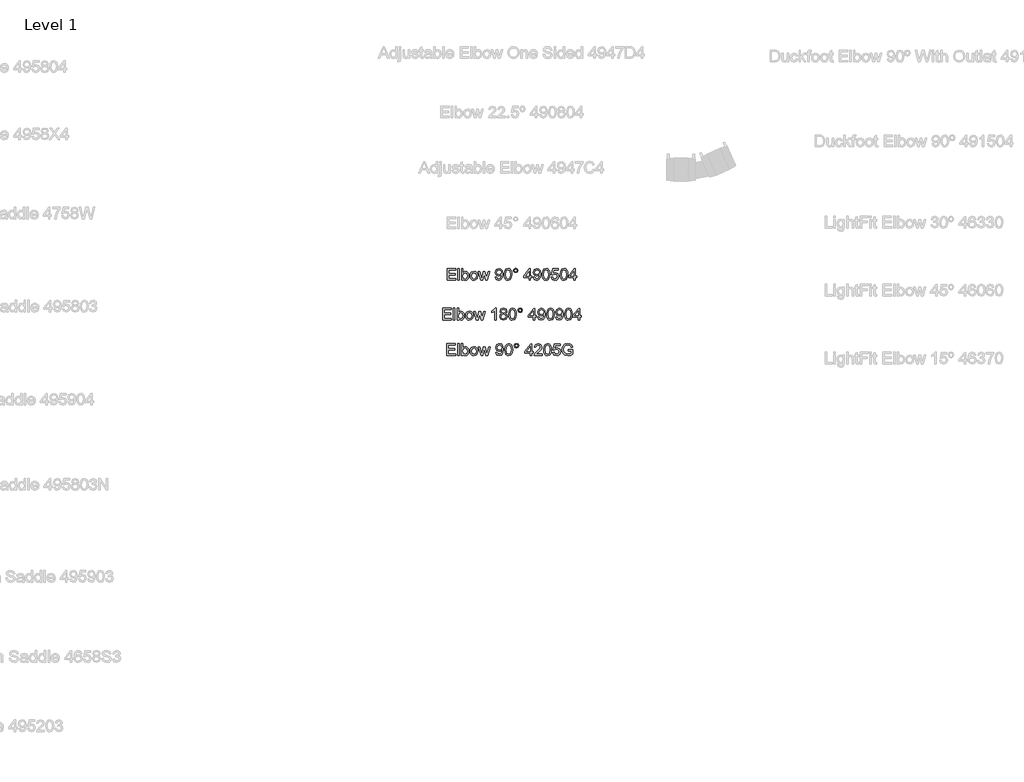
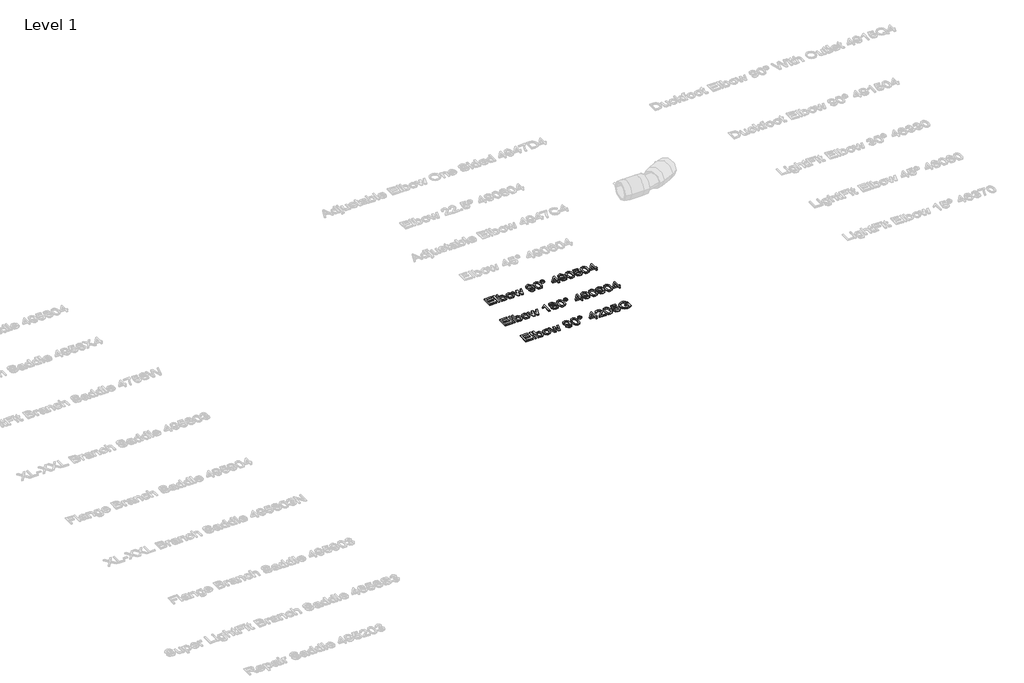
# One storey, part 14 of 41: 3 proxies.
"""IFC4 building model written with IfcOpenShell, lengths in millimetres."""

from ifc_helpers import new_model, si_unit, origin, origin_with_axes, place, context, project, spatial, polyline, outline, extrude, element, save

model = new_model("IFC4")

# Units and contexts
model_context = context("Model", 3, world=origin())
ifc_project = project(units=[si_unit("LENGTHUNIT", "METRE", prefix="MILLI")], contexts=[model_context])

# Site, building, storey
site = spatial("IfcSite", under=ifc_project)
building = spatial("IfcBuilding", under=site)
storey = spatial("IfcBuildingStorey", under=building, Name="Level 1", Elevation=0.0)

# Proxies
placement = place(None, origin())
element("IfcBuildingElementProxy", 1, Name="100 mm Arial", ObjectType="100 mm Arial", at=placement, inside=storey, context=model_context, shape_type="SweptSolid", body=[
    extrude(outline(polyline([(11332.9104891, 3888.1156584), (11332.9104891, 3947.1925814), (11375.3720276, 3947.1925814), (11375.3720276, 3939.8079661), (11340.2951045, 3939.8079661), (11340.2951045, 3922.2695045), (11373.5258737, 3922.2695045), (11373.5258737, 3914.8848891), (11340.2951045, 3914.8848891), (11340.2951045, 3895.5002738), (11376.2951045, 3895.5002738), (11376.2951045, 3888.1156584), (11332.9104891, 3888.1156584)])), origin_with_axes(), (0.0, 0.0, 1.0), 5.0),
    extrude(outline(polyline([(11386.4489506, 3888.1156584), (11386.4489506, 3947.1925814), (11393.833566, 3947.1925814), (11393.833566, 3888.1156584), (11386.4489506, 3888.1156584)])), origin_with_axes(), (0.0, 0.0, 1.0), 5.0),
    extrude(outline(polyline([(11412.2951045, 3888.1156584), (11404.9104891, 3888.1156584), (11404.9104891, 3947.1925814), (11412.2951045, 3947.1925814), (11412.2951045, 3925.2839276), (11417.4657776, 3930.6384949), (11423.8912583, 3932.4233507), (11431.2902968, 3930.8151776), (11437.0306814, 3926.293543), (11440.5571237, 3919.262293), (11441.833566, 3910.4570045), (11440.5120516, 3900.5988314), (11436.5475083, 3893.2646968), (11430.7295997, 3888.7106103), (11423.8479891, 3887.1925814), (11417.2818833, 3889.1505141), (11412.2951045, 3895.0243122), (11412.2951045, 3888.1156584)]), holes=[polyline([(11412.2951045, 3910.1108507), (11414.3143353, 3899.7839276), (11423.2133737, 3894.5771968), (11431.1172199, 3898.4137353), (11434.4489506, 3909.8512353), (11431.2542391, 3921.3320045), (11423.5306814, 3925.0387353), (11415.6268353, 3921.2021968), (11412.2951045, 3910.1108507)])]), origin_with_axes(), (0.0, 0.0, 1.0), 5.0),
    extrude(outline(polyline([(11448.2951045, 3909.8079661), (11449.8924603, 3920.2683026), (11454.6845276, 3927.6204661), (11467.694143, 3932.4233507), (11475.4519555, 3930.9612113), (11481.6484699, 3926.574793), (11485.7103689, 3919.6102497), (11487.0643353, 3910.4137353), (11484.6701045, 3897.2743122), (11477.6965468, 3889.8392161), (11467.694143, 3887.1925814), (11459.8425805, 3888.6493122), (11453.6532776, 3893.0195045), (11449.6346478, 3900.1300814), (11448.2951045, 3909.8079661)]), holes=[polyline([(11455.6797199, 3909.8223891), (11459.0979891, 3898.3776776), (11467.694143, 3894.5771968), (11476.2614506, 3898.3993122), (11479.6797199, 3910.0531584), (11476.239816, 3921.2382545), (11467.694143, 3925.0387353), (11459.0979891, 3921.2526776), (11455.6797199, 3909.8223891)])]), origin_with_axes(), (0.0, 0.0, 1.0), 5.0),
    extrude(outline(polyline([(11502.569143, 3888.1156584), (11489.3720276, 3931.5002738), (11497.0451045, 3931.5002738), (11504.5306814, 3906.1877738), (11506.7662583, 3897.1445045), (11508.5979891, 3905.856043), (11514.5547199, 3931.5002738), (11523.3527968, 3931.5002738), (11529.2806814, 3905.9281584), (11530.9104891, 3898.0387353), (11533.2470276, 3906.3608507), (11540.7470276, 3931.5002738), (11548.4489506, 3931.5002738), (11535.1508737, 3888.1156584), (11526.2229891, 3888.1156584), (11520.5547199, 3913.5579661), (11518.9104891, 3921.4906584), (11511.5979891, 3888.1156584), (11502.569143, 3888.1156584)])), origin_with_axes(), (0.0, 0.0, 1.0), 5.0),
    extrude(outline(polyline([(11575.6797199, 3902.8848891), (11583.0643353, 3903.8079661), (11586.381643, 3896.762293), (11592.6701045, 3894.5771968), (11598.6484699, 3895.9834468), (11602.7013545, 3899.7406584), (11605.1172199, 3906.1589276), (11606.1845276, 3914.7262353), (11600.2350083, 3910.5723891), (11592.1364506, 3908.4233507), (11579.7975083, 3913.6733507), (11574.756643, 3927.5050814), (11580.0427006, 3941.7839276), (11593.2902968, 3947.1925814), (11603.8119314, 3944.106043), (11611.052316, 3935.3079661), (11613.5258737, 3918.7791199), (11611.0595276, 3900.8440238), (11603.725393, 3890.6829661), (11592.3239506, 3887.1925814), (11580.9729891, 3891.3103699), (11575.6797199, 3902.8848891)]), holes=[polyline([(11606.1412583, 3927.6781584), (11602.9537583, 3936.5339276), (11594.4874122, 3939.8079661), (11585.6027968, 3936.2815238), (11582.1412583, 3927.1445045), (11585.4152968, 3918.9594084), (11594.2854891, 3915.8079661), (11602.802316, 3918.9594084), (11606.1412583, 3927.6781584)])]), origin_with_axes(), (0.0, 0.0, 1.0), 5.0),
    extrude(outline(polyline([(11619.9874122, 3917.1781584), (11622.1580853, 3934.1757545), (11628.6052006, 3943.9762353), (11639.3720276, 3947.1925814), (11647.9970276, 3945.2887353), (11653.9537583, 3939.8007545), (11657.4152968, 3931.0603699), (11658.756643, 3917.1781584), (11656.6076045, 3900.2526776), (11650.1821237, 3890.4305622), (11639.3720276, 3887.1925814), (11631.6989506, 3888.5988314), (11625.8720276, 3892.8175814), (11621.458566, 3902.809168), (11619.9874122, 3917.1781584)]), holes=[polyline([(11627.3720276, 3917.1925814), (11630.833566, 3898.8536391), (11639.3720276, 3894.5771968), (11647.9104891, 3898.8680622), (11651.3720276, 3917.1925814), (11648.0258737, 3935.3223891), (11639.2854891, 3939.8079661), (11630.9489506, 3935.856043), (11627.3720276, 3917.1925814)])]), origin_with_axes(), (0.0, 0.0, 1.0), 5.0),
    extrude(outline(polyline([(11667.0643353, 3937.0531584), (11670.3167391, 3944.8848891), (11678.1268353, 3948.1156584), (11685.9874122, 3944.8848891), (11689.2181814, 3937.0531584), (11685.9657776, 3929.2142161), (11678.1268353, 3925.9618122), (11670.3167391, 3929.1925814), (11667.0643353, 3937.0531584)]), holes=[polyline([(11671.6797199, 3937.0387353), (11673.5763545, 3932.4666199), (11678.1556814, 3930.5771968), (11682.7061622, 3932.4666199), (11684.6027968, 3937.0387353), (11682.7061622, 3941.6108507), (11678.1556814, 3943.5002738), (11673.5763545, 3941.6108507), (11671.6797199, 3937.0387353)])]), origin_with_axes(), (0.0, 0.0, 1.0), 5.0),
    extrude(outline(polyline([(11745.5258737, 3888.1156584), (11745.5258737, 3901.9618122), (11718.756643, 3901.9618122), (11718.756643, 3909.3464276), (11747.3720276, 3946.2695045), (11752.9104891, 3946.2695045), (11752.9104891, 3909.3464276), (11760.2951045, 3909.3464276), (11760.2951045, 3901.9618122), (11752.9104891, 3901.9618122), (11752.9104891, 3888.1156584), (11745.5258737, 3888.1156584)]), holes=[polyline([(11745.5258737, 3909.3464276), (11745.5258737, 3932.1637353), (11727.8431814, 3909.3464276), (11745.5258737, 3909.3464276)])]), origin_with_axes(), (0.0, 0.0, 1.0), 5.0),
    extrude(outline(polyline([(11767.6797199, 3902.8848891), (11775.0643353, 3903.8079661), (11778.381643, 3896.762293), (11784.6701045, 3894.5771968), (11790.6484699, 3895.9834468), (11794.7013545, 3899.7406584), (11797.1172199, 3906.1589276), (11798.1845276, 3914.7262353), (11792.2350083, 3910.5723891), (11784.1364506, 3908.4233507), (11771.7975083, 3913.6733507), (11766.756643, 3927.5050814), (11772.0427006, 3941.7839276), (11785.2902968, 3947.1925814), (11795.8119314, 3944.106043), (11803.052316, 3935.3079661), (11805.5258737, 3918.7791199), (11803.0595276, 3900.8440238), (11795.725393, 3890.6829661), (11784.3239506, 3887.1925814), (11772.9729891, 3891.3103699), (11767.6797199, 3902.8848891)]), holes=[polyline([(11798.1412583, 3927.6781584), (11794.9537583, 3936.5339276), (11786.4874122, 3939.8079661), (11777.6027968, 3936.2815238), (11774.1412583, 3927.1445045), (11777.4152968, 3918.9594084), (11786.2854891, 3915.8079661), (11794.802316, 3918.9594084), (11798.1412583, 3927.6781584)])]), origin_with_axes(), (0.0, 0.0, 1.0), 5.0),
    extrude(outline(polyline([(11811.9874122, 3917.1781584), (11814.1580853, 3934.1757545), (11820.6052006, 3943.9762353), (11831.3720276, 3947.1925814), (11839.9970276, 3945.2887353), (11845.9537583, 3939.8007545), (11849.4152968, 3931.0603699), (11850.756643, 3917.1781584), (11848.6076045, 3900.2526776), (11842.1821237, 3890.4305622), (11831.3720276, 3887.1925814), (11823.6989506, 3888.5988314), (11817.8720276, 3892.8175814), (11813.458566, 3902.809168), (11811.9874122, 3917.1781584)]), holes=[polyline([(11819.3720276, 3917.1925814), (11822.833566, 3898.8536391), (11831.3720276, 3894.5771968), (11839.9104891, 3898.8680622), (11843.3720276, 3917.1925814), (11840.0258737, 3935.3223891), (11831.2854891, 3939.8079661), (11822.9489506, 3935.856043), (11819.3720276, 3917.1925814)])]), origin_with_axes(), (0.0, 0.0, 1.0), 5.0),
    extrude(outline(polyline([(11857.2181814, 3903.8079661), (11864.6027968, 3904.731043), (11868.3239506, 3897.1228699), (11876.0402968, 3894.5771968), (11885.2999122, 3898.1180622), (11888.6027968, 3907.5146968), (11885.5090468, 3916.2839276), (11876.1556814, 3919.5002738), (11869.6725083, 3918.2166199), (11865.5258737, 3914.8848891), (11858.1412583, 3915.8079661), (11864.6027968, 3946.2695045), (11893.2181814, 3946.2695045), (11893.2181814, 3938.8848891), (11870.5739506, 3938.8848891), (11867.4152968, 3922.6156584), (11878.2181814, 3926.8848891), (11890.8455853, 3921.5916199), (11895.9874122, 3907.9762353), (11891.3576045, 3894.2743122), (11884.708566, 3888.9630141), (11876.0114506, 3887.1925814), (11862.9802006, 3891.7430622), (11857.2181814, 3903.8079661)])), origin_with_axes(), (0.0, 0.0, 1.0), 5.0),
    extrude(outline(polyline([(11902.4489506, 3917.1781584), (11904.6196237, 3934.1757545), (11911.0667391, 3943.9762353), (11921.833566, 3947.1925814), (11930.458566, 3945.2887353), (11936.4152968, 3939.8007545), (11939.8768353, 3931.0603699), (11941.2181814, 3917.1781584), (11939.069143, 3900.2526776), (11932.6436622, 3890.4305622), (11921.833566, 3887.1925814), (11914.1604891, 3888.5988314), (11908.333566, 3892.8175814), (11903.9201045, 3902.809168), (11902.4489506, 3917.1781584)]), holes=[polyline([(11909.833566, 3917.1925814), (11913.2951045, 3898.8536391), (11921.833566, 3894.5771968), (11930.3720276, 3898.8680622), (11933.833566, 3917.1925814), (11930.4874122, 3935.3223891), (11921.7470276, 3939.8079661), (11913.4104891, 3935.856043), (11909.833566, 3917.1925814)])]), origin_with_axes(), (0.0, 0.0, 1.0), 5.0),
    extrude(outline(polyline([(11971.6797199, 3888.1156584), (11971.6797199, 3901.9618122), (11944.9104891, 3901.9618122), (11944.9104891, 3909.3464276), (11973.5258737, 3946.2695045), (11979.0643353, 3946.2695045), (11979.0643353, 3909.3464276), (11986.4489506, 3909.3464276), (11986.4489506, 3901.9618122), (11979.0643353, 3901.9618122), (11979.0643353, 3888.1156584), (11971.6797199, 3888.1156584)]), holes=[polyline([(11971.6797199, 3909.3464276), (11971.6797199, 3932.1637353), (11953.9970276, 3909.3464276), (11971.6797199, 3909.3464276)])]), origin_with_axes(), (0.0, 0.0, 1.0), 5.0),
])
element("IfcBuildingElementProxy", 2, Name="100 mm Arial", ObjectType="100 mm Arial", at=placement, inside=storey, context=model_context, shape_type="SweptSolid", body=[
    extrude(outline(polyline([(11310.2951045, 3687.1209804), (11310.2951045, 3746.1979035), (11352.756643, 3746.1979035), (11352.756643, 3738.8132881), (11317.6797199, 3738.8132881), (11317.6797199, 3721.2748266), (11350.9104891, 3721.2748266), (11350.9104891, 3713.8902112), (11317.6797199, 3713.8902112), (11317.6797199, 3694.5055958), (11353.6797199, 3694.5055958), (11353.6797199, 3687.1209804), (11310.2951045, 3687.1209804)])), origin_with_axes(), (0.0, 0.0, 1.0), 5.0),
    extrude(outline(polyline([(11363.833566, 3687.1209804), (11363.833566, 3746.1979035), (11371.2181814, 3746.1979035), (11371.2181814, 3687.1209804), (11363.833566, 3687.1209804)])), origin_with_axes(), (0.0, 0.0, 1.0), 5.0),
    extrude(outline(polyline([(11389.6797199, 3687.1209804), (11382.2951045, 3687.1209804), (11382.2951045, 3746.1979035), (11389.6797199, 3746.1979035), (11389.6797199, 3724.2892496), (11394.850393, 3729.6438169), (11401.2758737, 3731.4286727), (11408.6749122, 3729.8204996), (11414.4152968, 3725.298865), (11417.9417391, 3718.267615), (11419.2181814, 3709.4623266), (11417.896667, 3699.6041535), (11413.9321237, 3692.2700189), (11408.1142151, 3687.7159323), (11401.2326045, 3686.1979035), (11394.6664987, 3688.1558362), (11389.6797199, 3694.0296343), (11389.6797199, 3687.1209804)]), holes=[polyline([(11389.6797199, 3709.1161727), (11391.6989506, 3698.7892496), (11400.5979891, 3693.5825189), (11408.5018353, 3697.4190573), (11411.833566, 3708.8565573), (11408.6388545, 3720.3373266), (11400.9152968, 3724.0440573), (11393.0114506, 3720.2075189), (11389.6797199, 3709.1161727)])]), origin_with_axes(), (0.0, 0.0, 1.0), 5.0),
    extrude(outline(polyline([(11425.6797199, 3708.8132881), (11427.2770756, 3719.2736246), (11432.069143, 3726.6257881), (11445.0787583, 3731.4286727), (11452.8365708, 3729.9665333), (11459.0330853, 3725.580115), (11463.0949843, 3718.6155718), (11464.4489506, 3709.4190573), (11462.0547199, 3696.2796343), (11455.0811622, 3688.8445381), (11445.0787583, 3686.1979035), (11437.2271958, 3687.6546343), (11431.037893, 3692.0248266), (11427.0192631, 3699.1354035), (11425.6797199, 3708.8132881)]), holes=[polyline([(11433.0643353, 3708.8277112), (11436.4826045, 3697.3829996), (11445.0787583, 3693.5825189), (11453.646066, 3697.4046343), (11457.0643353, 3709.0584804), (11453.6244314, 3720.2435766), (11445.0787583, 3724.0440573), (11436.4826045, 3720.2579996), (11433.0643353, 3708.8277112)])]), origin_with_axes(), (0.0, 0.0, 1.0), 5.0),
    extrude(outline(polyline([(11479.9537583, 3687.1209804), (11466.756643, 3730.5055958), (11474.4297199, 3730.5055958), (11481.9152968, 3705.1930958), (11484.1508737, 3696.1498266), (11485.9826045, 3704.861365), (11491.9393353, 3730.5055958), (11500.7374122, 3730.5055958), (11506.6652968, 3704.9334804), (11508.2951045, 3697.0440573), (11510.631643, 3705.3661727), (11518.131643, 3730.5055958), (11525.833566, 3730.5055958), (11512.5354891, 3687.1209804), (11503.6076045, 3687.1209804), (11497.9393353, 3712.5632881), (11496.2951045, 3720.4959804), (11488.9826045, 3687.1209804), (11479.9537583, 3687.1209804)])), origin_with_axes(), (0.0, 0.0, 1.0), 5.0),
    extrude(outline(polyline([(11579.833566, 3687.1209804), (11572.4489506, 3687.1209804), (11572.4489506, 3733.1594419), (11565.4537583, 3728.1762689), (11557.6797199, 3724.4479035), (11557.6797199, 3731.4286727), (11568.5042391, 3738.3373266), (11575.0739506, 3746.1979035), (11579.833566, 3746.1979035), (11579.833566, 3687.1209804)])), origin_with_axes(), (0.0, 0.0, 1.0), 5.0),
    extrude(outline(polyline([(11608.131643, 3719.6594419), (11601.4032776, 3724.2459804), (11599.2181814, 3731.3854035), (11603.9777968, 3741.9286727), (11616.6556814, 3746.1979035), (11629.4489506, 3741.8277112), (11634.2951045, 3731.1834804), (11632.1388545, 3724.2243458), (11625.5979891, 3719.6594419), (11633.4513545, 3713.8685766), (11636.1412583, 3704.3132881), (11630.8047199, 3691.4190573), (11616.756643, 3686.1979035), (11602.708566, 3691.4406919), (11597.3720276, 3704.5152112), (11600.1701045, 3714.2940573), (11608.131643, 3719.6594419)]), holes=[polyline([(11604.756643, 3704.7748266), (11605.989816, 3699.2147304), (11610.3527968, 3695.0536727), (11616.8143353, 3693.5825189), (11625.6124122, 3696.6762689), (11628.756643, 3704.5440573), (11625.5114506, 3712.5632881), (11616.569143, 3715.736365), (11607.8792391, 3712.6065573), (11604.756643, 3704.7748266)]), polyline([(11606.6027968, 3731.1690573), (11609.2205853, 3725.3709804), (11616.8431814, 3723.1209804), (11624.3143353, 3725.3565573), (11626.9104891, 3730.8373266), (11624.2277968, 3736.5128073), (11616.756643, 3738.8132881), (11609.2638545, 3736.5632881), (11606.6027968, 3731.1690573)])]), origin_with_axes(), (0.0, 0.0, 1.0), 5.0),
    extrude(outline(polyline([(11642.6027968, 3716.1834804), (11644.7734699, 3733.1810766), (11651.2205853, 3742.9815573), (11661.9874122, 3746.1979035), (11670.6124122, 3744.2940573), (11676.569143, 3738.8060766), (11680.0306814, 3730.0656919), (11681.3720276, 3716.1834804), (11679.2229891, 3699.2579996), (11672.7975083, 3689.4358843), (11661.9874122, 3686.1979035), (11654.3143353, 3687.6041535), (11648.4874122, 3691.8229035), (11644.0739506, 3701.81449), (11642.6027968, 3716.1834804)]), holes=[polyline([(11649.9874122, 3716.1979035), (11653.4489506, 3697.8589612), (11661.9874122, 3693.5825189), (11670.5258737, 3697.8733843), (11673.9874122, 3716.1979035), (11670.6412583, 3734.3277112), (11661.9008737, 3738.8132881), (11653.5643353, 3734.861365), (11649.9874122, 3716.1979035)])]), origin_with_axes(), (0.0, 0.0, 1.0), 5.0),
    extrude(outline(polyline([(11689.6797199, 3736.0584804), (11692.9321237, 3743.8902112), (11700.7422199, 3747.1209804), (11708.6027968, 3743.8902112), (11711.833566, 3736.0584804), (11708.5811622, 3728.2195381), (11700.7422199, 3724.9671343), (11692.9321237, 3728.1979035), (11689.6797199, 3736.0584804)]), holes=[polyline([(11694.2951045, 3736.0440573), (11696.1917391, 3731.4719419), (11700.771066, 3729.5825189), (11705.3215468, 3731.4719419), (11707.2181814, 3736.0440573), (11705.3215468, 3740.6161727), (11700.771066, 3742.5055958), (11696.1917391, 3740.6161727), (11694.2951045, 3736.0440573)])]), origin_with_axes(), (0.0, 0.0, 1.0), 5.0),
    extrude(outline(polyline([(11768.1412583, 3687.1209804), (11768.1412583, 3700.9671343), (11741.3720276, 3700.9671343), (11741.3720276, 3708.3517496), (11769.9874122, 3745.2748266), (11775.5258737, 3745.2748266), (11775.5258737, 3708.3517496), (11782.9104891, 3708.3517496), (11782.9104891, 3700.9671343), (11775.5258737, 3700.9671343), (11775.5258737, 3687.1209804), (11768.1412583, 3687.1209804)]), holes=[polyline([(11768.1412583, 3708.3517496), (11768.1412583, 3731.1690573), (11750.458566, 3708.3517496), (11768.1412583, 3708.3517496)])]), origin_with_axes(), (0.0, 0.0, 1.0), 5.0),
    extrude(outline(polyline([(11790.2951045, 3701.8902112), (11797.6797199, 3702.8132881), (11800.9970276, 3695.767615), (11807.2854891, 3693.5825189), (11813.2638545, 3694.9887689), (11817.3167391, 3698.7459804), (11819.7326045, 3705.1642496), (11820.7999122, 3713.7315573), (11814.850393, 3709.5777112), (11806.7518353, 3707.4286727), (11794.412893, 3712.6786727), (11789.3720276, 3726.5104035), (11794.6580853, 3740.7892496), (11807.9056814, 3746.1979035), (11818.427316, 3743.111365), (11825.6677006, 3734.3132881), (11828.1412583, 3717.7844419), (11825.6749122, 3699.8493458), (11818.3407776, 3689.6882881), (11806.9393353, 3686.1979035), (11795.5883737, 3690.3156919), (11790.2951045, 3701.8902112)]), holes=[polyline([(11820.756643, 3726.6834804), (11817.569143, 3735.5392496), (11809.1027968, 3738.8132881), (11800.2181814, 3735.2868458), (11796.756643, 3726.1498266), (11800.0306814, 3717.9647304), (11808.9008737, 3714.8132881), (11817.4177006, 3717.9647304), (11820.756643, 3726.6834804)])]), origin_with_axes(), (0.0, 0.0, 1.0), 5.0),
    extrude(outline(polyline([(11834.6027968, 3716.1834804), (11836.7734699, 3733.1810766), (11843.2205853, 3742.9815573), (11853.9874122, 3746.1979035), (11862.6124122, 3744.2940573), (11868.569143, 3738.8060766), (11872.0306814, 3730.0656919), (11873.3720276, 3716.1834804), (11871.2229891, 3699.2579996), (11864.7975083, 3689.4358843), (11853.9874122, 3686.1979035), (11846.3143353, 3687.6041535), (11840.4874122, 3691.8229035), (11836.0739506, 3701.81449), (11834.6027968, 3716.1834804)]), holes=[polyline([(11841.9874122, 3716.1979035), (11845.4489506, 3697.8589612), (11853.9874122, 3693.5825189), (11862.5258737, 3697.8733843), (11865.9874122, 3716.1979035), (11862.6412583, 3734.3277112), (11853.9008737, 3738.8132881), (11845.5643353, 3734.861365), (11841.9874122, 3716.1979035)])]), origin_with_axes(), (0.0, 0.0, 1.0), 5.0),
    extrude(outline(polyline([(11880.756643, 3701.8902112), (11888.1412583, 3702.8132881), (11891.458566, 3695.767615), (11897.7470276, 3693.5825189), (11903.725393, 3694.9887689), (11907.7782776, 3698.7459804), (11910.194143, 3705.1642496), (11911.2614506, 3713.7315573), (11905.3119314, 3709.5777112), (11897.2133737, 3707.4286727), (11884.8744314, 3712.6786727), (11879.833566, 3726.5104035), (11885.1196237, 3740.7892496), (11898.3672199, 3746.1979035), (11908.8888545, 3743.111365), (11916.1292391, 3734.3132881), (11918.6027968, 3717.7844419), (11916.1364506, 3699.8493458), (11908.802316, 3689.6882881), (11897.4008737, 3686.1979035), (11886.0499122, 3690.3156919), (11880.756643, 3701.8902112)]), holes=[polyline([(11911.2181814, 3726.6834804), (11908.0306814, 3735.5392496), (11899.5643353, 3738.8132881), (11890.6797199, 3735.2868458), (11887.2181814, 3726.1498266), (11890.4922199, 3717.9647304), (11899.3624122, 3714.8132881), (11907.8792391, 3717.9647304), (11911.2181814, 3726.6834804)])]), origin_with_axes(), (0.0, 0.0, 1.0), 5.0),
    extrude(outline(polyline([(11925.0643353, 3716.1834804), (11927.2350083, 3733.1810766), (11933.6821237, 3742.9815573), (11944.4489506, 3746.1979035), (11953.0739506, 3744.2940573), (11959.0306814, 3738.8060766), (11962.4922199, 3730.0656919), (11963.833566, 3716.1834804), (11961.6845276, 3699.2579996), (11955.2590468, 3689.4358843), (11944.4489506, 3686.1979035), (11936.7758737, 3687.6041535), (11930.9489506, 3691.8229035), (11926.5354891, 3701.81449), (11925.0643353, 3716.1834804)]), holes=[polyline([(11932.4489506, 3716.1979035), (11935.9104891, 3697.8589612), (11944.4489506, 3693.5825189), (11952.9874122, 3697.8733843), (11956.4489506, 3716.1979035), (11953.1027968, 3734.3277112), (11944.3624122, 3738.8132881), (11936.0258737, 3734.861365), (11932.4489506, 3716.1979035)])]), origin_with_axes(), (0.0, 0.0, 1.0), 5.0),
    extrude(outline(polyline([(11994.2951045, 3687.1209804), (11994.2951045, 3700.9671343), (11967.5258737, 3700.9671343), (11967.5258737, 3708.3517496), (11996.1412583, 3745.2748266), (12001.6797199, 3745.2748266), (12001.6797199, 3708.3517496), (12009.0643353, 3708.3517496), (12009.0643353, 3700.9671343), (12001.6797199, 3700.9671343), (12001.6797199, 3687.1209804), (11994.2951045, 3687.1209804)]), holes=[polyline([(11994.2951045, 3708.3517496), (11994.2951045, 3731.1690573), (11976.6124122, 3708.3517496), (11994.2951045, 3708.3517496)])]), origin_with_axes(), (0.0, 0.0, 1.0), 5.0),
])
element("IfcBuildingElementProxy", 3, Name="100 mm Arial", ObjectType="100 mm Arial", at=placement, inside=storey, context=model_context, shape_type="SweptSolid", body=[
    extrude(outline(polyline([(11330.4260114, 3507.1209804), (11330.4260114, 3567.3947665), (11373.7477951, 3567.3947665), (11373.7477951, 3559.8605432), (11337.9602346, 3559.8605432), (11337.9602346, 3541.966763), (11371.8642393, 3541.966763), (11371.8642393, 3534.4325397), (11337.9602346, 3534.4325397), (11337.9602346, 3514.6552037), (11374.689573, 3514.6552037), (11374.689573, 3507.1209804), (11330.4260114, 3507.1209804)])), origin_with_axes(), (0.0, 0.0, 1.0), 5.0),
    extrude(outline(polyline([(11385.04913, 3507.1209804), (11385.04913, 3567.3947665), (11392.5833533, 3567.3947665), (11392.5833533, 3507.1209804), (11385.04913, 3507.1209804)])), origin_with_axes(), (0.0, 0.0, 1.0), 5.0),
    extrude(outline(polyline([(11411.4189114, 3507.1209804), (11403.8846882, 3507.1209804), (11403.8846882, 3567.3947665), (11411.4189114, 3567.3947665), (11411.4189114, 3545.0422565), (11416.6943393, 3550.5053041), (11423.2499964, 3552.32632), (11430.7989349, 3550.6855663), (11436.6556163, 3546.0723261), (11440.2535022, 3538.8986271), (11441.5558045, 3529.9149488), (11440.207517, 3519.8570551), (11436.1626544, 3512.3743353), (11430.2268784, 3507.7279857), (11423.2058506, 3506.1792025), (11416.5067194, 3508.1768017), (11411.4189114, 3514.1695994), (11411.4189114, 3507.1209804)]), holes=[polyline([(11411.4189114, 3529.5617821), (11413.4790506, 3519.0256418), (11422.5583783, 3513.7134258), (11430.6223516, 3517.6276902), (11434.0215812, 3529.2969071), (11430.7621467, 3541.0102698), (11422.8821144, 3544.7920967), (11414.8181411, 3540.8778323), (11411.4189114, 3529.5617821)])]), origin_with_axes(), (0.0, 0.0, 1.0), 5.0),
    extrude(outline(polyline([(11448.1482498, 3529.2527612), (11449.7779671, 3539.9250179), (11454.6671188, 3547.4261318), (11467.9403012, 3552.32632), (11475.8552823, 3550.8345585), (11482.1773344, 3546.359274), (11486.3215251, 3539.2536333), (11487.702922, 3529.870803), (11485.2601855, 3516.4651831), (11478.1453477, 3508.8794563), (11467.9403012, 3506.1792025), (11459.9296707, 3507.6654458), (11453.6149763, 3512.1241755), (11449.5149315, 3519.3788085), (11448.1482498, 3529.2527612)]), holes=[polyline([(11455.6824731, 3529.2674765), (11459.1699944, 3517.590902), (11467.9403012, 3513.7134258), (11476.6811774, 3517.6129749), (11480.1686987, 3529.502921), (11476.6591045, 3540.9146205), (11467.9403012, 3544.7920967), (11459.1699944, 3540.9293358), (11455.6824731, 3529.2674765)])]), origin_with_axes(), (0.0, 0.0, 1.0), 5.0),
    extrude(outline(polyline([(11503.5218478, 3507.1209804), (11490.0573667, 3551.3845421), (11497.8858956, 3551.3845421), (11505.5231258, 3525.559226), (11507.8039942, 3516.3327456), (11509.6728347, 3525.2207746), (11515.7502453, 3551.3845421), (11524.726566, 3551.3845421), (11530.774546, 3525.294351), (11532.4373726, 3517.2450929), (11534.8212479, 3525.7358094), (11542.4731934, 3551.3845421), (11550.3311528, 3551.3845421), (11536.7636648, 3507.1209804), (11527.6549066, 3507.1209804), (11521.8718017, 3533.078734), (11520.1942598, 3541.1721379), (11512.7336129, 3507.1209804), (11503.5218478, 3507.1209804)])), origin_with_axes(), (0.0, 0.0, 1.0), 5.0),
    extrude(outline(polyline([(11578.1136011, 3522.1894269), (11585.6478244, 3523.1312048), (11589.0323387, 3515.9427906), (11595.4482007, 3513.7134258), (11601.5476842, 3515.1481655), (11605.6826778, 3518.9814959), (11608.1474872, 3525.5297954), (11609.2364179, 3534.2706716), (11603.166365, 3530.0326711), (11594.9037354, 3527.8400944), (11582.3148135, 3533.1964562), (11577.1718232, 3547.3084096), (11582.5649732, 3561.8765366), (11596.0809577, 3567.3947665), (11606.8157544, 3564.2456966), (11614.2028248, 3555.2693759), (11616.7264953, 3538.4056653), (11614.2101825, 3520.1072148), (11606.7274627, 3509.7403002), (11595.095034, 3506.1792025), (11583.5141088, 3510.3804149), (11578.1136011, 3522.1894269)]), holes=[polyline([(11609.192272, 3547.4849929), (11605.9401952, 3556.5201747), (11597.302326, 3559.8605432), (11588.2377136, 3556.2626573), (11584.7060464, 3546.9405276), (11588.046415, 3538.5896063), (11597.096312, 3535.3743176), (11605.7856848, 3538.5896063), (11609.192272, 3547.4849929)])]), origin_with_axes(), (0.0, 0.0, 1.0), 5.0),
    extrude(outline(polyline([(11623.3189407, 3536.7722692), (11625.5335903, 3554.1142265), (11632.1113203, 3564.1132591), (11643.0962767, 3567.3947665), (11651.896014, 3565.4523496), (11657.9734246, 3559.8531856), (11661.5050918, 3550.935726), (11662.8736128, 3536.7722692), (11660.6810361, 3519.5038884), (11654.1253789, 3509.4827828), (11643.0962767, 3506.1792025), (11635.2677479, 3507.6139423), (11629.3227748, 3511.9181616), (11624.8198992, 3522.1121717), (11623.3189407, 3536.7722692)]), holes=[polyline([(11630.8531639, 3536.7869845), (11634.3848311, 3518.0765062), (11643.0962767, 3513.7134258), (11651.8077224, 3518.0912215), (11655.3393895, 3536.7869845), (11651.9254446, 3555.2840912), (11643.007985, 3559.8605432), (11634.5025533, 3555.8285566), (11630.8531639, 3536.7869845)])]), origin_with_axes(), (0.0, 0.0, 1.0), 5.0),
    extrude(outline(polyline([(11671.349614, 3557.0499248), (11674.6679095, 3565.0403217), (11682.6362336, 3568.3365444), (11690.6560611, 3565.0403217), (11693.9522837, 3557.0499248), (11690.6339881, 3549.0521702), (11682.6362336, 3545.7338746), (11674.6679095, 3549.0300973), (11671.349614, 3557.0499248)]), holes=[polyline([(11676.0585035, 3557.0352095), (11677.9935628, 3552.3704658), (11682.6656641, 3550.4427642), (11687.3083349, 3552.3704658), (11689.2433942, 3557.0352095), (11687.3083349, 3561.6999532), (11682.6656641, 3563.6276549), (11677.9935628, 3561.6999532), (11676.0585035, 3557.0352095)])]), origin_with_axes(), (0.0, 0.0, 1.0), 5.0),
    extrude(outline(polyline([(11751.4007361, 3507.1209804), (11751.4007361, 3521.247649), (11724.0891768, 3521.247649), (11724.0891768, 3528.7818723), (11753.2842919, 3566.4529886), (11758.9349594, 3566.4529886), (11758.9349594, 3528.7818723), (11766.4691826, 3528.7818723), (11766.4691826, 3521.247649), (11758.9349594, 3521.247649), (11758.9349594, 3507.1209804), (11751.4007361, 3507.1209804)]), holes=[polyline([(11751.4007361, 3528.7818723), (11751.4007361, 3552.0614449), (11733.3598031, 3528.7818723), (11751.4007361, 3528.7818723)])]), origin_with_axes(), (0.0, 0.0, 1.0), 5.0),
    extrude(outline(polyline([(11811.6745222, 3514.6552037), (11811.6745222, 3507.1209804), (11772.1198501, 3507.1209804), (11772.9291905, 3512.3154742), (11777.5056425, 3520.3132288), (11786.9381368, 3529.0467473), (11799.9464442, 3541.598881), (11803.198521, 3550.1337433), (11800.1303852, 3557.0425671), (11792.1179153, 3559.8605432), (11783.766994, 3557.1087859), (11780.5958512, 3549.5009862), (11773.061628, 3550.4427642), (11778.8373753, 3563.053759), (11792.2797834, 3567.3947665), (11805.7663374, 3562.5681547), (11810.7327443, 3550.589917), (11809.3936538, 3543.4456486), (11804.9422817, 3536.0585781), (11794.1486239, 3525.7358094), (11785.4813241, 3518.4885341), (11782.0820945, 3514.6552037), (11811.6745222, 3514.6552037)])), origin_with_axes(), (0.0, 0.0, 1.0), 5.0),
    extrude(outline(polyline([(11819.2087455, 3536.7722692), (11821.4233951, 3554.1142265), (11828.0011251, 3564.1132591), (11838.9860815, 3567.3947665), (11847.7858188, 3565.4523496), (11853.8632294, 3559.8531856), (11857.3948966, 3550.935726), (11858.7634176, 3536.7722692), (11856.5708409, 3519.5038884), (11850.0151837, 3509.4827828), (11838.9860815, 3506.1792025), (11831.1575527, 3507.6139423), (11825.2125796, 3511.9181616), (11820.709704, 3522.1121717), (11819.2087455, 3536.7722692)]), holes=[polyline([(11826.7429687, 3536.7869845), (11830.2746359, 3518.0765062), (11838.9860815, 3513.7134258), (11847.6975272, 3518.0912215), (11851.2291943, 3536.7869845), (11847.8152494, 3555.2840912), (11838.8977898, 3559.8605432), (11830.3923581, 3555.8285566), (11826.7429687, 3536.7869845)])]), origin_with_axes(), (0.0, 0.0, 1.0), 5.0),
    extrude(outline(polyline([(11865.3558629, 3523.1312048), (11872.8900862, 3524.0729827), (11876.6866284, 3516.3106726), (11884.5593031, 3513.7134258), (11894.0065127, 3517.326027), (11897.3763118, 3526.9130317), (11894.2198843, 3535.8599219), (11884.6770253, 3539.1414293), (11878.062507, 3537.8317694), (11873.8318641, 3534.4325397), (11866.2976408, 3535.3743176), (11872.8900862, 3566.4529886), (11902.0852013, 3566.4529886), (11902.0852013, 3558.9187653), (11878.982212, 3558.9187653), (11875.7595658, 3542.3199297), (11886.7813103, 3546.6756525), (11899.6645378, 3541.2751448), (11904.9105351, 3527.3839207), (11900.1869302, 3513.4044049), (11893.4031862, 3507.9855031), (11884.5298725, 3506.1792025), (11871.2346172, 3510.8218733), (11865.3558629, 3523.1312048)])), origin_with_axes(), (0.0, 0.0, 1.0), 5.0),
    extrude(outline(polyline([(11942.5816514, 3530.6654281), (11942.5816514, 3538.1996514), (11967.067877, 3538.1996514), (11967.067877, 3515.670558), (11954.9792746, 3508.5630778), (11942.1990541, 3506.1792025), (11926.1078956, 3509.968387), (11915.189158, 3520.9386281), (11911.5029804, 3536.9635679), (11915.1744427, 3553.3490319), (11925.732656, 3564.6430092), (11941.5957276, 3568.3365444), (11953.3826667, 3566.1954712), (11961.6452963, 3560.2357829), (11966.1996754, 3550.2661808), (11959.2540634, 3548.3090486), (11955.8180455, 3555.2767336), (11949.9466489, 3559.294005), (11941.4780054, 3560.8023211), (11931.8321395, 3559.1762827), (11925.2691247, 3554.9088516), (11921.3916484, 3549.1036737), (11919.0372037, 3537.2725887), (11921.869895, 3524.1392015), (11930.1104517, 3516.2812421), (11941.5957276, 3513.7134258), (11951.9037811, 3515.6484851), (11959.5336537, 3519.776121), (11959.5336537, 3530.6654281), (11942.5816514, 3530.6654281)])), origin_with_axes(), (0.0, 0.0, 1.0), 5.0),
])

save(model, "model.ifc")
